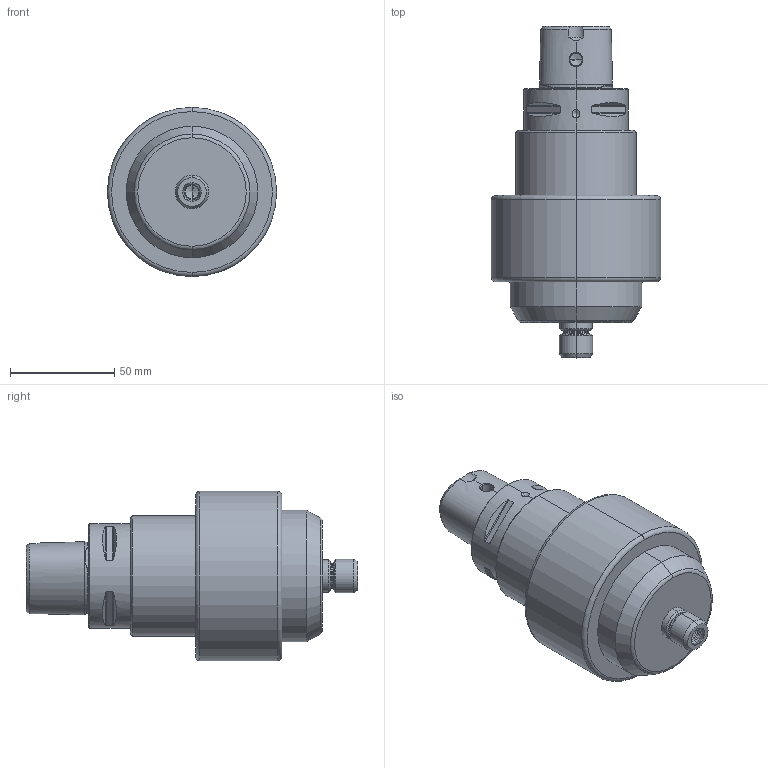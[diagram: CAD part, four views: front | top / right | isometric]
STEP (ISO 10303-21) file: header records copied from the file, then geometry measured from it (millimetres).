
FILE_DESCRIPTION (( 'STEP AP214' ), '1' );
FILE_NAME ('TJS-GJET-C5-Light.STEP', '2018-05-01T06:22:11', ( '' ), ( '' ), 'SwSTEP 2.0', 'SolidWorks 2015', '' );
FILE_SCHEMA (( 'AUTOMOTIVE_DESIGN' ));
Length unit declared in the file: millimetre
Products named in the file (1): TJS-GJET-C5-Light
Bounding box: 81.1 x 159.04 x 81.1 mm (x, y, z)
Volume: 407138 mm3; surface area: 40074.9 mm2
Topology: 1 solids, 1 shells, 156 faces, 372 edges, 216 vertices
Faces by surface type: cone 54, cylinder 45, plane 27, bspline 22, torus 8
Entity records: 9989 total; most frequent: CARTESIAN_POINT 6584, ORIENTED_EDGE 712, DIRECTION 685, EDGE_CURVE 356, AXIS2_PLACEMENT_3D 283, VERTEX_POINT 216, EDGE_LOOP 172, ADVANCED_FACE 156
